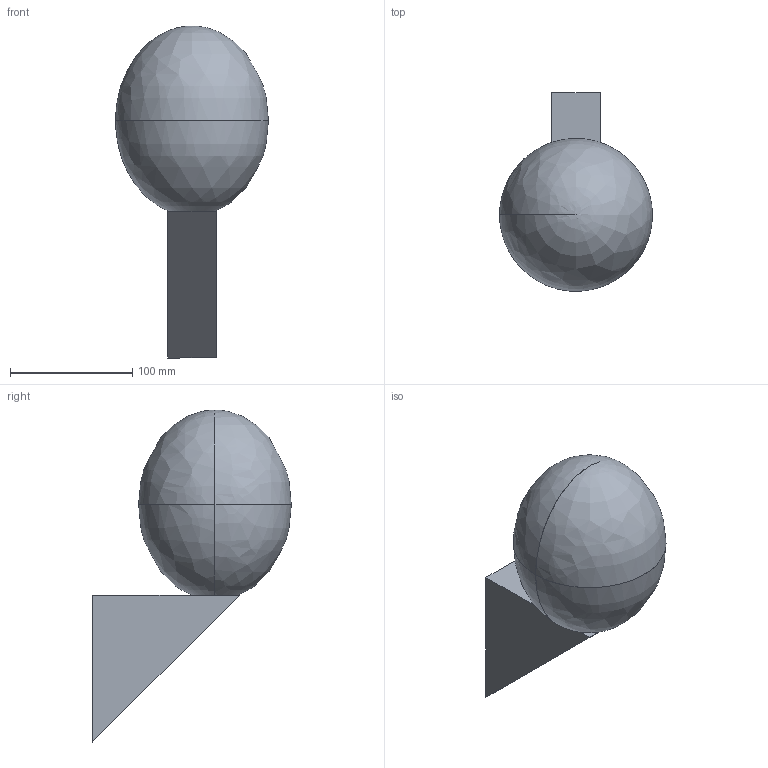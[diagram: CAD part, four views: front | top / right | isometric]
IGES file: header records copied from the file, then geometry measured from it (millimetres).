
Start section: Use this template file for building objects the size of a truck or smaller, and for objects which must be built to manufacturing tolerances. Units: Millimeters Absolute tolerance: .001 mm
Global section: file name: /Volumes/Company/WIP/Marlen/WFH/Website/SALES 3D/THE PHILOSOPHICAL EGG/WALL MOUNTED/MA_The Philosophical Egg Collection Wall Mounted_240V_2019.igs; preprocessor: Trout Lake IGES 012 Dec  4 2019; date: 201202.110522; units: millimetre
Bounding box: 124.98 x 162.46 x 271.46 mm (x, y, z)
Surface area: 85762.4 mm2 (no closed solid volume)
Topology: 0 solids, 0 shells, 7 faces, 30 edges, 26 vertices
Faces by surface type: bspline 7
